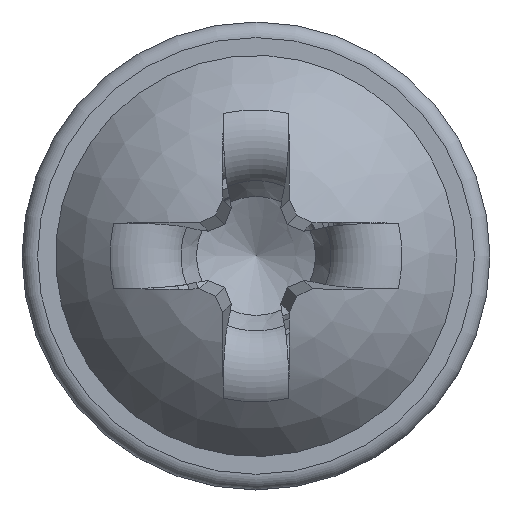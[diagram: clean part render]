
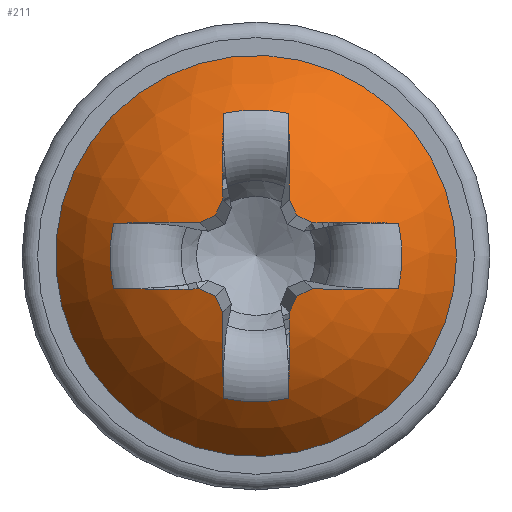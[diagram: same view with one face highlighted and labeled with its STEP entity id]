
A CAD part, top view. The second image highlights one B-rep face of the part: STEP entity #211.
In plain terms, the highlighted spherical face has radius 2.513 mm.
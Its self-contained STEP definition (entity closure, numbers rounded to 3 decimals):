
#180=SPHERICAL_SURFACE('',#1221,2.513);
#191=FACE_BOUND('',#355,.T.);
#192=FACE_BOUND('',#356,.T.);
#211=ADVANCED_FACE('',(#191,#192),#180,.T.);
#355=EDGE_LOOP('',(#488));
#356=EDGE_LOOP('',(#489,#490,#491,#492,#493,#494,#495,#496,#497,#498,#499,
#500,#501,#502,#503,#504,#505,#506,#507,#508));
#437=CIRCLE('',#1200,2.143);
#438=CIRCLE('',#1201,2.51);
#439=CIRCLE('',#1202,1.561);
#440=CIRCLE('',#1203,2.51);
#441=CIRCLE('',#1204,2.499);
#442=CIRCLE('',#1205,2.499);
#443=CIRCLE('',#1206,2.51);
#444=CIRCLE('',#1207,1.561);
#445=CIRCLE('',#1208,2.51);
#446=CIRCLE('',#1209,2.499);
#447=CIRCLE('',#1210,2.499);
#448=CIRCLE('',#1211,2.51);
#449=CIRCLE('',#1212,1.561);
#450=CIRCLE('',#1213,2.51);
#451=CIRCLE('',#1214,2.499);
#452=CIRCLE('',#1215,2.499);
#453=CIRCLE('',#1216,2.51);
#454=CIRCLE('',#1217,1.561);
#455=CIRCLE('',#1218,2.51);
#456=CIRCLE('',#1219,2.499);
#457=CIRCLE('',#1220,2.499);
#488=ORIENTED_EDGE('',*,*,#945,.T.);
#489=ORIENTED_EDGE('',*,*,#946,.F.);
#490=ORIENTED_EDGE('',*,*,#947,.T.);
#491=ORIENTED_EDGE('',*,*,#948,.F.);
#492=ORIENTED_EDGE('',*,*,#949,.F.);
#493=ORIENTED_EDGE('',*,*,#950,.F.);
#494=ORIENTED_EDGE('',*,*,#951,.F.);
#495=ORIENTED_EDGE('',*,*,#952,.T.);
#496=ORIENTED_EDGE('',*,*,#953,.F.);
#497=ORIENTED_EDGE('',*,*,#954,.F.);
#498=ORIENTED_EDGE('',*,*,#955,.F.);
#499=ORIENTED_EDGE('',*,*,#956,.F.);
#500=ORIENTED_EDGE('',*,*,#957,.T.);
#501=ORIENTED_EDGE('',*,*,#958,.F.);
#502=ORIENTED_EDGE('',*,*,#959,.F.);
#503=ORIENTED_EDGE('',*,*,#960,.F.);
#504=ORIENTED_EDGE('',*,*,#961,.F.);
#505=ORIENTED_EDGE('',*,*,#962,.T.);
#506=ORIENTED_EDGE('',*,*,#963,.F.);
#507=ORIENTED_EDGE('',*,*,#964,.F.);
#508=ORIENTED_EDGE('',*,*,#965,.F.);
#832=VERTEX_POINT('',#1741);
#833=VERTEX_POINT('',#1743);
#834=VERTEX_POINT('',#1744);
#835=VERTEX_POINT('',#1746);
#836=VERTEX_POINT('',#1748);
#837=VERTEX_POINT('',#1750);
#838=VERTEX_POINT('',#1752);
#839=VERTEX_POINT('',#1754);
#840=VERTEX_POINT('',#1756);
#841=VERTEX_POINT('',#1758);
#842=VERTEX_POINT('',#1760);
#843=VERTEX_POINT('',#1762);
#844=VERTEX_POINT('',#1764);
#845=VERTEX_POINT('',#1766);
#846=VERTEX_POINT('',#1768);
#847=VERTEX_POINT('',#1770);
#848=VERTEX_POINT('',#1772);
#849=VERTEX_POINT('',#1774);
#850=VERTEX_POINT('',#1776);
#851=VERTEX_POINT('',#1778);
#852=VERTEX_POINT('',#1780);
#945=EDGE_CURVE('',#832,#832,#437,.T.);
#946=EDGE_CURVE('',#833,#834,#438,.T.);
#947=EDGE_CURVE('',#833,#835,#439,.T.);
#948=EDGE_CURVE('',#836,#835,#440,.T.);
#949=EDGE_CURVE('',#837,#836,#441,.T.);
#950=EDGE_CURVE('',#838,#837,#442,.T.);
#951=EDGE_CURVE('',#839,#838,#443,.T.);
#952=EDGE_CURVE('',#839,#840,#444,.T.);
#953=EDGE_CURVE('',#841,#840,#445,.T.);
#954=EDGE_CURVE('',#842,#841,#446,.T.);
#955=EDGE_CURVE('',#843,#842,#447,.T.);
#956=EDGE_CURVE('',#844,#843,#448,.T.);
#957=EDGE_CURVE('',#844,#845,#449,.T.);
#958=EDGE_CURVE('',#846,#845,#450,.T.);
#959=EDGE_CURVE('',#847,#846,#451,.T.);
#960=EDGE_CURVE('',#848,#847,#452,.T.);
#961=EDGE_CURVE('',#849,#848,#453,.T.);
#962=EDGE_CURVE('',#849,#850,#454,.T.);
#963=EDGE_CURVE('',#851,#850,#455,.T.);
#964=EDGE_CURVE('',#852,#851,#456,.T.);
#965=EDGE_CURVE('',#834,#852,#457,.T.);
#1200=AXIS2_PLACEMENT_3D('',#1740,#1285,#1286);
#1201=AXIS2_PLACEMENT_3D('',#1742,#1287,#1288);
#1202=AXIS2_PLACEMENT_3D('',#1745,#1289,#1290);
#1203=AXIS2_PLACEMENT_3D('',#1747,#1291,#1292);
#1204=AXIS2_PLACEMENT_3D('',#1749,#1293,#1294);
#1205=AXIS2_PLACEMENT_3D('',#1751,#1295,#1296);
#1206=AXIS2_PLACEMENT_3D('',#1753,#1297,#1298);
#1207=AXIS2_PLACEMENT_3D('',#1755,#1299,#1300);
#1208=AXIS2_PLACEMENT_3D('',#1757,#1301,#1302);
#1209=AXIS2_PLACEMENT_3D('',#1759,#1303,#1304);
#1210=AXIS2_PLACEMENT_3D('',#1761,#1305,#1306);
#1211=AXIS2_PLACEMENT_3D('',#1763,#1307,#1308);
#1212=AXIS2_PLACEMENT_3D('',#1765,#1309,#1310);
#1213=AXIS2_PLACEMENT_3D('',#1767,#1311,#1312);
#1214=AXIS2_PLACEMENT_3D('',#1769,#1313,#1314);
#1215=AXIS2_PLACEMENT_3D('',#1771,#1315,#1316);
#1216=AXIS2_PLACEMENT_3D('',#1773,#1317,#1318);
#1217=AXIS2_PLACEMENT_3D('',#1775,#1319,#1320);
#1218=AXIS2_PLACEMENT_3D('',#1777,#1321,#1322);
#1219=AXIS2_PLACEMENT_3D('',#1779,#1323,#1324);
#1220=AXIS2_PLACEMENT_3D('',#1781,#1325,#1326);
#1221=AXIS2_PLACEMENT_3D('',#1782,#1327,#1328);
#1285=DIRECTION('',(0.,0.,1.));
#1286=DIRECTION('',(1.,0.,0.));
#1287=DIRECTION('',(-0.035,0.996,0.087));
#1288=DIRECTION('',(0.,-0.087,0.996));
#1289=DIRECTION('',(0.,0.,-1.));
#1290=DIRECTION('',(-1.,0.,0.));
#1291=DIRECTION('',(-0.035,-0.996,0.087));
#1292=DIRECTION('',(0.,-0.087,-0.996));
#1293=DIRECTION('',(0.404,-0.907,0.122));
#1294=DIRECTION('',(0.914,0.407,0.));
#1295=DIRECTION('',(0.907,-0.404,0.122));
#1296=DIRECTION('',(0.407,0.914,0.));
#1297=DIRECTION('',(0.996,0.035,0.087));
#1298=DIRECTION('',(0.087,0.,-0.996));
#1299=DIRECTION('',(0.,0.,-1.));
#1300=DIRECTION('',(-1.,0.,0.));
#1301=DIRECTION('',(-0.996,0.035,0.087));
#1302=DIRECTION('',(0.087,0.,0.996));
#1303=DIRECTION('',(-0.907,-0.404,0.122));
#1304=DIRECTION('',(0.407,-0.914,0.));
#1305=DIRECTION('',(-0.404,-0.907,0.122));
#1306=DIRECTION('',(0.914,-0.407,0.));
#1307=DIRECTION('',(0.035,-0.996,0.087));
#1308=DIRECTION('',(0.,-0.087,-0.996));
#1309=DIRECTION('',(0.,0.,-1.));
#1310=DIRECTION('',(-1.,0.,0.));
#1311=DIRECTION('',(0.035,0.996,0.087));
#1312=DIRECTION('',(0.,-0.087,0.996));
#1313=DIRECTION('',(-0.404,0.907,0.122));
#1314=DIRECTION('',(-0.914,-0.407,0.));
#1315=DIRECTION('',(-0.907,0.404,0.122));
#1316=DIRECTION('',(-0.407,-0.914,0.));
#1317=DIRECTION('',(-0.996,-0.035,0.087));
#1318=DIRECTION('',(0.087,0.,0.996));
#1319=DIRECTION('',(0.,0.,-1.));
#1320=DIRECTION('',(-1.,0.,0.));
#1321=DIRECTION('',(0.996,-0.035,0.087));
#1322=DIRECTION('',(0.087,0.,-0.996));
#1323=DIRECTION('',(0.907,0.404,0.122));
#1324=DIRECTION('',(-0.407,0.914,0.));
#1325=DIRECTION('',(0.404,0.907,0.122));
#1326=DIRECTION('',(-0.914,0.407,0.));
#1327=DIRECTION('',(0.,0.,1.));
#1328=DIRECTION('',(0.,1.,0.));
#1740=CARTESIAN_POINT('',(0.,0.,0.6));
#1741=CARTESIAN_POINT('',(2.143,0.,0.6));
#1742=CARTESIAN_POINT('',(0.004,-0.121,-0.724));
#1743=CARTESIAN_POINT('',(-1.522,-0.347,1.256));
#1744=CARTESIAN_POINT('',(-0.604,-0.354,1.7));
#1745=CARTESIAN_POINT('',(0.,0.,1.256));
#1746=CARTESIAN_POINT('',(-1.522,0.347,1.256));
#1747=CARTESIAN_POINT('',(0.004,0.121,-0.724));
#1748=CARTESIAN_POINT('',(-0.604,0.354,1.7));
#1749=CARTESIAN_POINT('',(-0.109,0.246,-0.746));
#1750=CARTESIAN_POINT('',(-0.434,0.434,1.724));
#1751=CARTESIAN_POINT('',(-0.246,0.109,-0.746));
#1752=CARTESIAN_POINT('',(-0.354,0.604,1.7));
#1753=CARTESIAN_POINT('',(-0.121,-0.004,-0.724));
#1754=CARTESIAN_POINT('',(-0.347,1.522,1.256));
#1755=CARTESIAN_POINT('',(0.,0.,1.256));
#1756=CARTESIAN_POINT('',(0.347,1.522,1.256));
#1757=CARTESIAN_POINT('',(0.121,-0.004,-0.724));
#1758=CARTESIAN_POINT('',(0.354,0.604,1.7));
#1759=CARTESIAN_POINT('',(0.246,0.109,-0.746));
#1760=CARTESIAN_POINT('',(0.434,0.434,1.724));
#1761=CARTESIAN_POINT('',(0.109,0.246,-0.746));
#1762=CARTESIAN_POINT('',(0.604,0.354,1.7));
#1763=CARTESIAN_POINT('',(-0.004,0.121,-0.724));
#1764=CARTESIAN_POINT('',(1.522,0.347,1.256));
#1765=CARTESIAN_POINT('',(0.,0.,1.256));
#1766=CARTESIAN_POINT('',(1.522,-0.347,1.256));
#1767=CARTESIAN_POINT('',(-0.004,-0.121,-0.724));
#1768=CARTESIAN_POINT('',(0.604,-0.354,1.7));
#1769=CARTESIAN_POINT('',(0.109,-0.246,-0.746));
#1770=CARTESIAN_POINT('',(0.434,-0.434,1.724));
#1771=CARTESIAN_POINT('',(0.246,-0.109,-0.746));
#1772=CARTESIAN_POINT('',(0.354,-0.604,1.7));
#1773=CARTESIAN_POINT('',(0.121,0.004,-0.724));
#1774=CARTESIAN_POINT('',(0.347,-1.522,1.256));
#1775=CARTESIAN_POINT('',(0.,0.,1.256));
#1776=CARTESIAN_POINT('',(-0.347,-1.522,1.256));
#1777=CARTESIAN_POINT('',(-0.121,0.004,-0.724));
#1778=CARTESIAN_POINT('',(-0.354,-0.604,1.7));
#1779=CARTESIAN_POINT('',(-0.246,-0.109,-0.746));
#1780=CARTESIAN_POINT('',(-0.434,-0.434,1.724));
#1781=CARTESIAN_POINT('',(-0.109,-0.246,-0.746));
#1782=CARTESIAN_POINT('',(0.,0.,-0.713));
